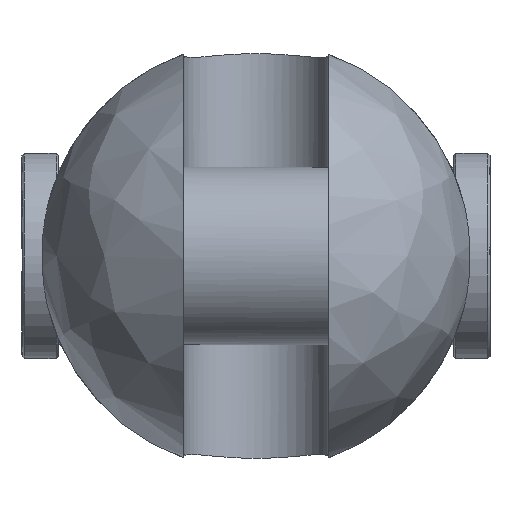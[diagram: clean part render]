
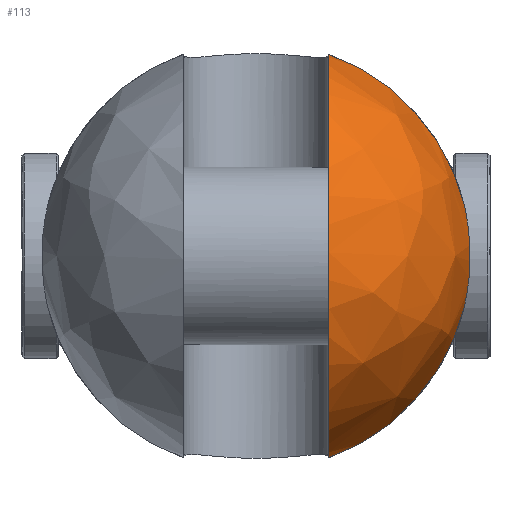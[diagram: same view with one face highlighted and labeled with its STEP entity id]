
A CAD part, left-side view. The second image highlights one B-rep face of the part: STEP entity #113.
In plain terms, the highlighted free-form (B-spline) face has degree [2, 2] with [9, 5] control points.
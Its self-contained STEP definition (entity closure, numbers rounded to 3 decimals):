
#113=ADVANCED_FACE('',(#200),#1527,.T.);
#200=FACE_OUTER_BOUND('',#299,.T.);
#299=EDGE_LOOP('',(#741,#742,#743,#744));
#741=ORIENTED_EDGE('',*,*,#998,.T.);
#742=ORIENTED_EDGE('',*,*,#995,.F.);
#743=ORIENTED_EDGE('',*,*,#1015,.T.);
#744=ORIENTED_EDGE('',*,*,#987,.F.);
#987=EDGE_CURVE('',#1418,#1419,#1249,.T.);
#995=EDGE_CURVE('',#1426,#1427,#1250,.T.);
#998=EDGE_CURVE('',#1418,#1427,#1252,.T.);
#1015=EDGE_CURVE('',#1426,#1419,#1123,.T.);
#1123=B_SPLINE_CURVE_WITH_KNOTS('',3,(#3624,#3625,#3626,#3627,#3628,#3629,
#3630,#3631,#3632,#3633,#3634,#3635,#3636,#3637),.UNSPECIFIED.,.F.,.F.,
(4,2,2,2,2,2,4),(0.,1.446,6.787,12.128,17.469,
22.81,24.256),.UNSPECIFIED.);
#1249=(
BOUNDED_CURVE()
B_SPLINE_CURVE(2,(#3474,#3475,#3476),.UNSPECIFIED.,.F.,.F.)
B_SPLINE_CURVE_WITH_KNOTS((3,3),(0.,45.894),.UNSPECIFIED.)
CURVE()
GEOMETRIC_REPRESENTATION_ITEM()
RATIONAL_B_SPLINE_CURVE((1.,0.883,1.))
REPRESENTATION_ITEM('')
);
#1250=(
BOUNDED_CURVE()
B_SPLINE_CURVE(2,(#3531,#3532,#3533),.UNSPECIFIED.,.F.,.F.)
B_SPLINE_CURVE_WITH_KNOTS((3,3),(0.,45.894),.UNSPECIFIED.)
CURVE()
GEOMETRIC_REPRESENTATION_ITEM()
RATIONAL_B_SPLINE_CURVE((1.,0.883,1.))
REPRESENTATION_ITEM('')
);
#1252=(
BOUNDED_CURVE()
B_SPLINE_CURVE(2,(#3539,#3540,#3541,#3542,#3543),.UNSPECIFIED.,.F.,.F.)
B_SPLINE_CURVE_WITH_KNOTS((3,2,3),(-138.836,-69.418,
0.),.UNSPECIFIED.)
CURVE()
GEOMETRIC_REPRESENTATION_ITEM()
RATIONAL_B_SPLINE_CURVE((1.,0.707,1.,0.707,1.))
REPRESENTATION_ITEM('')
);
#1418=VERTEX_POINT('',#3274);
#1419=VERTEX_POINT('',#3275);
#1426=VERTEX_POINT('',#3282);
#1427=VERTEX_POINT('',#3283);
#1527=(
BOUNDED_SURFACE()
B_SPLINE_SURFACE(2,2,((#3146,#3147,#3148,#3149,#3150),(#3151,#3152,#3153,
#3154,#3155),(#3156,#3157,#3158,#3159,#3160),(#3161,#3162,#3163,#3164,#3165),
(#3166,#3167,#3168,#3169,#3170),(#3171,#3172,#3173,#3174,#3175),(#3176,
#3177,#3178,#3179,#3180),(#3181,#3182,#3183,#3184,#3185),(#3186,#3187,#3188,
#3189,#3190)),.UNSPECIFIED.,.T.,.F.,.F.)
B_SPLINE_SURFACE_WITH_KNOTS((3,2,2,2,3),(3,2,3),(0.,73.827,147.655,
221.482,295.31),(0.,73.827,147.655),
 .UNSPECIFIED.)
GEOMETRIC_REPRESENTATION_ITEM()
RATIONAL_B_SPLINE_SURFACE(((1.,0.707,1.,0.707,1.),
(0.707,0.5,0.707,0.5,0.707),(1.,0.707,
1.,0.707,1.),(0.707,0.5,0.707,0.5,0.707),
(1.,0.707,1.,0.707,1.),(0.707,0.5,0.707,
0.5,0.707),(1.,0.707,1.,0.707,1.),(0.707,
0.5,0.707,0.5,0.707),(1.,0.707,1.,0.707,
1.)))
REPRESENTATION_ITEM('')
SURFACE()
);
#3146=CARTESIAN_POINT('',(-67.5,0.,0.));
#3147=CARTESIAN_POINT('',(-67.5,47.,0.));
#3148=CARTESIAN_POINT('',(-20.5,47.,0.));
#3149=CARTESIAN_POINT('',(26.5,47.,0.));
#3150=CARTESIAN_POINT('',(26.5,0.,0.));
#3151=CARTESIAN_POINT('',(-67.5,0.,0.));
#3152=CARTESIAN_POINT('',(-67.5,47.,47.));
#3153=CARTESIAN_POINT('',(-20.5,47.,47.));
#3154=CARTESIAN_POINT('',(26.5,47.,47.));
#3155=CARTESIAN_POINT('',(26.5,0.,0.));
#3156=CARTESIAN_POINT('',(-67.5,0.,0.));
#3157=CARTESIAN_POINT('',(-67.5,0.,47.));
#3158=CARTESIAN_POINT('',(-20.5,0.,47.));
#3159=CARTESIAN_POINT('',(26.5,0.,47.));
#3160=CARTESIAN_POINT('',(26.5,0.,0.));
#3161=CARTESIAN_POINT('',(-67.5,0.,0.));
#3162=CARTESIAN_POINT('',(-67.5,-47.,47.));
#3163=CARTESIAN_POINT('',(-20.5,-47.,47.));
#3164=CARTESIAN_POINT('',(26.5,-47.,47.));
#3165=CARTESIAN_POINT('',(26.5,0.,0.));
#3166=CARTESIAN_POINT('',(-67.5,0.,0.));
#3167=CARTESIAN_POINT('',(-67.5,-47.,0.));
#3168=CARTESIAN_POINT('',(-20.5,-47.,0.));
#3169=CARTESIAN_POINT('',(26.5,-47.,0.));
#3170=CARTESIAN_POINT('',(26.5,0.,0.));
#3171=CARTESIAN_POINT('',(-67.5,0.,0.));
#3172=CARTESIAN_POINT('',(-67.5,-47.,-47.));
#3173=CARTESIAN_POINT('',(-20.5,-47.,-47.));
#3174=CARTESIAN_POINT('',(26.5,-47.,-47.));
#3175=CARTESIAN_POINT('',(26.5,0.,0.));
#3176=CARTESIAN_POINT('',(-67.5,0.,0.));
#3177=CARTESIAN_POINT('',(-67.5,0.,-47.));
#3178=CARTESIAN_POINT('',(-20.5,0.,-47.));
#3179=CARTESIAN_POINT('',(26.5,0.,-47.));
#3180=CARTESIAN_POINT('',(26.5,0.,0.));
#3181=CARTESIAN_POINT('',(-67.5,0.,0.));
#3182=CARTESIAN_POINT('',(-67.5,47.,-47.));
#3183=CARTESIAN_POINT('',(-20.5,47.,-47.));
#3184=CARTESIAN_POINT('',(26.5,47.,-47.));
#3185=CARTESIAN_POINT('',(26.5,0.,0.));
#3186=CARTESIAN_POINT('',(-67.5,0.,0.));
#3187=CARTESIAN_POINT('',(-67.5,47.,0.));
#3188=CARTESIAN_POINT('',(-20.5,47.,0.));
#3189=CARTESIAN_POINT('',(26.5,47.,0.));
#3190=CARTESIAN_POINT('',(26.5,0.,0.));
#3274=CARTESIAN_POINT('',(-20.5,-16.,44.193));
#3275=CARTESIAN_POINT('',(-20.5,-45.574,11.489));
#3282=CARTESIAN_POINT('',(-20.5,-45.574,-11.489));
#3283=CARTESIAN_POINT('',(-20.5,-16.,-44.193));
#3474=CARTESIAN_POINT('',(-20.5,-16.,44.193));
#3475=CARTESIAN_POINT('',(-20.5,-39.472,35.695));
#3476=CARTESIAN_POINT('',(-20.5,-45.574,11.489));
#3531=CARTESIAN_POINT('',(-20.5,-45.574,-11.489));
#3532=CARTESIAN_POINT('',(-20.5,-39.472,-35.695));
#3533=CARTESIAN_POINT('',(-20.5,-16.,-44.193));
#3539=CARTESIAN_POINT('',(-20.5,-16.,44.193));
#3540=CARTESIAN_POINT('',(-64.693,-16.,44.193));
#3541=CARTESIAN_POINT('',(-64.693,-16.,0.));
#3542=CARTESIAN_POINT('',(-64.693,-16.,-44.193));
#3543=CARTESIAN_POINT('',(-20.5,-16.,-44.193));
#3624=CARTESIAN_POINT('',(-20.5,-45.574,-11.489));
#3625=CARTESIAN_POINT('',(-20.733,-45.679,-11.073));
#3626=CARTESIAN_POINT('',(-20.954,-45.778,-10.65));
#3627=CARTESIAN_POINT('',(-21.93,-46.214,-8.628));
#3628=CARTESIAN_POINT('',(-22.523,-46.475,-6.936));
#3629=CARTESIAN_POINT('',(-23.308,-46.82,-3.482));
#3630=CARTESIAN_POINT('',(-23.5,-46.904,-1.721));
#3631=CARTESIAN_POINT('',(-23.5,-46.904,1.721));
#3632=CARTESIAN_POINT('',(-23.308,-46.82,3.482));
#3633=CARTESIAN_POINT('',(-22.523,-46.475,6.936));
#3634=CARTESIAN_POINT('',(-21.93,-46.214,8.628));
#3635=CARTESIAN_POINT('',(-20.954,-45.778,10.65));
#3636=CARTESIAN_POINT('',(-20.733,-45.679,11.073));
#3637=CARTESIAN_POINT('',(-20.5,-45.574,11.489));
